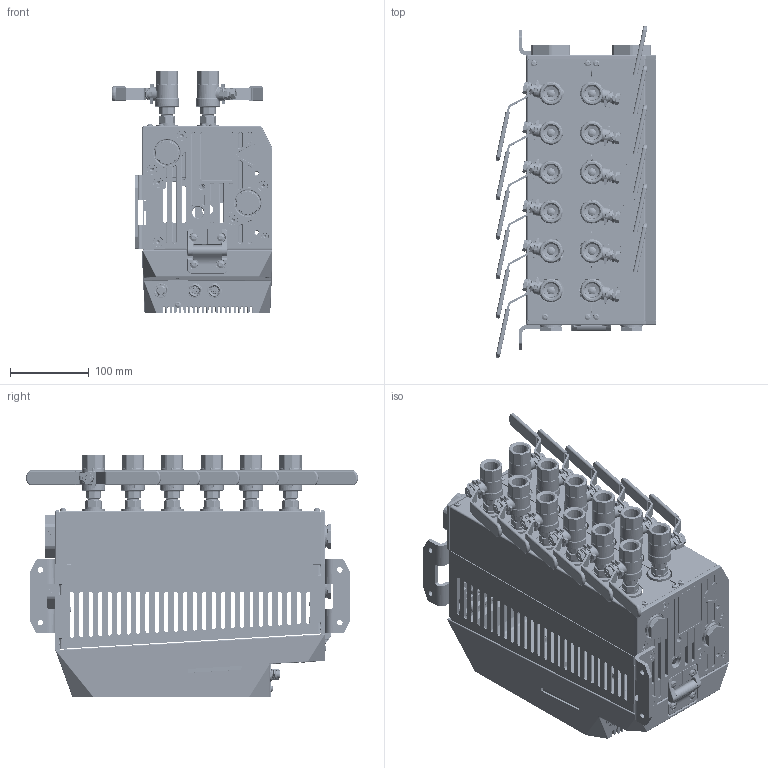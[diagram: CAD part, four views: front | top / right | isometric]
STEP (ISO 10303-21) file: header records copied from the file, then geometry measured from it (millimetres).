
FILE_DESCRIPTION (( 'STEP AP214' ), '1' );
FILE_NAME ('HB-FX1XXR61-6-ZH.STEP', '2026-03-02T08:55:35', ( '' ), ( '' ), 'SwSTEP 2.0', 'SolidWorks 2023', '' );
FILE_SCHEMA (( 'AUTOMOTIVE_DESIGN' ));
Length unit declared in the file: millimetre
Products named in the file (25): 29857_00 - geschlossen; Kopie von K8534-Hülle Teil3^K8534-Hülle kompl_6-FACH-RECHTS HB-Therm; Kopie von 29734-X^Kopie von K8534-Hülle Teil3_K8534-Hülle kompl_00; 29788_Geschlossen; 29702_A15x1-A2; Kopie von 29793-X^Kopie von K8534-Hülle Teil2_K8534-Hülle kompl_29793-1; Kopie von 29822-X^Kopie von K8534-Hülle Teil3_K8534-Hülle kompl_00; KX508-2_2^Kopie von 28706_Kopie von K8534-Hülle Teil2_K8534-Hülle kompl; Kopie von Kopie von 24568^Kopie von K8534-Hülle Teil3_K8534-Hülle kompl_00; Kopie von 29714^Kopie von K8534-Hülle Teil2_K8534-Hülle kompl; Kopie von 29817-X^Kopie von K8534-Hülle Teil3_K8534-Hülle kompl_01-mit Beschriftung; Kopie von 29827^Kopie von K8534-Hülle Teil2_K8534-Hülle kompl; KX508-2_3^Kopie von 28706_Kopie von K8534-Hülle Teil2_K8534-Hülle kompl; HB-FX1XXR61-6-ZH; Kopie von 29730^Kopie von K8534-Hülle Teil3_K8534-Hülle kompl_00; Kopie von 28862^Kopie von K8534-Hülle Teil2_K8534-Hülle kompl_M5x12; Kopie von 29811-X^Kopie von K8534-Hülle Teil3_K8534-Hülle kompl_01-mit Beschriftung; Kopie (2) von B3061620^Kopie von K8534-Hülle Teil2_K8534-Hülle kompl_M4x12; KX508-2_1^Kopie von 28706_Kopie von K8534-Hülle Teil2_K8534-Hülle kompl; 29669_00; Kopie von 28706^Kopie von K8534-Hülle Teil2_K8534-Hülle kompl_180°; Kopie von Kopie von 29730^Kopie von K8534-Hülle Teil2_K8534-Hülle kompl_00; Kopie von K8534-Hülle RECHTS^Kopie von K8534-Hülle Teil3_K8534-Hülle kompl_6-FACH RECHTS; Kopie von 29733-X^Kopie von K8534-Hülle Teil2_K8534-Hülle kompl; Kopie von K8534-Hülle Teil2^K8534-Hülle kompl_6-Fach HB-Therm
Assembly tree (45 placements, depth 4):
  HB-FX1XXR61-6-ZH
    Kopie von K8534-Hülle Teil3^K8534-Hülle kompl_6-FACH-RECHTS HB-Therm
      Kopie von 29734-X^Kopie von K8534-Hülle Teil3_K8534-Hülle kompl_00  x2
      Kopie von 29730^Kopie von K8534-Hülle Teil3_K8534-Hülle kompl_00  x4
      Kopie von K8534-Hülle RECHTS^Kopie von K8534-Hülle Teil3_K8534-Hülle kompl_6-FACH RECHTS
      Kopie von 29811-X^Kopie von K8534-Hülle Teil3_K8534-Hülle kompl_01-mit Beschriftung
      Kopie von 29817-X^Kopie von K8534-Hülle Teil3_K8534-Hülle kompl_01-mit Beschriftung
      Kopie von 29822-X^Kopie von K8534-Hülle Teil3_K8534-Hülle kompl_00
      Kopie von Kopie von 24568^Kopie von K8534-Hülle Teil3_K8534-Hülle kompl_00  x2
    Kopie von K8534-Hülle Teil2^K8534-Hülle kompl_6-Fach HB-Therm
      Kopie von 29827^Kopie von K8534-Hülle Teil2_K8534-Hülle kompl  x2
      Kopie von 29714^Kopie von K8534-Hülle Teil2_K8534-Hülle kompl
      Kopie von 28862^Kopie von K8534-Hülle Teil2_K8534-Hülle kompl_M5x12  x4
      Kopie von 28706^Kopie von K8534-Hülle Teil2_K8534-Hülle kompl_180°
        KX508-2_1^Kopie von 28706_Kopie von K8534-Hülle Teil2_K8534-Hülle kompl
        KX508-2_2^Kopie von 28706_Kopie von K8534-Hülle Teil2_K8534-Hülle kompl
        KX508-2_3^Kopie von 28706_Kopie von K8534-Hülle Teil2_K8534-Hülle kompl
      Kopie von 29793-X^Kopie von K8534-Hülle Teil2_K8534-Hülle kompl_29793-1
      Kopie von Kopie von 29730^Kopie von K8534-Hülle Teil2_K8534-Hülle kompl_00  x2
      Kopie von 29733-X^Kopie von K8534-Hülle Teil2_K8534-Hülle kompl
      Kopie (2) von B3061620^Kopie von K8534-Hülle Teil2_K8534-Hülle kompl_M4x12
    29857_00 - geschlossen  x12
      29788_Geschlossen
      29669_00
      29702_A15x1-A2
Bounding box: 204.11 x 421.24 x 307.8 mm (x, y, z)
Volume: 1848851.7 mm3; surface area: 1196918.6 mm2
Topology: 269 solids, 270 shells, 11574 faces, 27842 edges, 16993 vertices
Faces by surface type: plane 4012, cylinder 3374, torus 1329, cone 1322, bspline 1193, sphere 344
Full cylindrical faces by diameter (mm): 2.5 x13, 3.3 x24, 3.6 x1, 4 x14, 4.2 x5, 4.5 x6, 4.6 x1, 4.9 x6, 5 x36, 5.2 x4, 6 x14, 6.6 x12, 6.8 x2, 7 x18, 7.8 x2, 8 x72, 8.013 x12, 8.3 x1, 8.4 x4, 9.4 x1, 10 x25, 10.2 x1, 10.3 x1, 10.5 x48, 10.55 x1, 10.8 x2, 11.04 x12, 12 x26, 12.1 x10, 12.3 x12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
Entity records: 348349 total; most frequent: CARTESIAN_POINT 98413, ORIENTED_EDGE 34852, DIRECTION 33649, EDGE_CURVE 17426, AXIS2_PLACEMENT_3D 12912, VERTEX_POINT 11000, EDGE_LOOP 8920, FACE_OUTER_BOUND 7950
